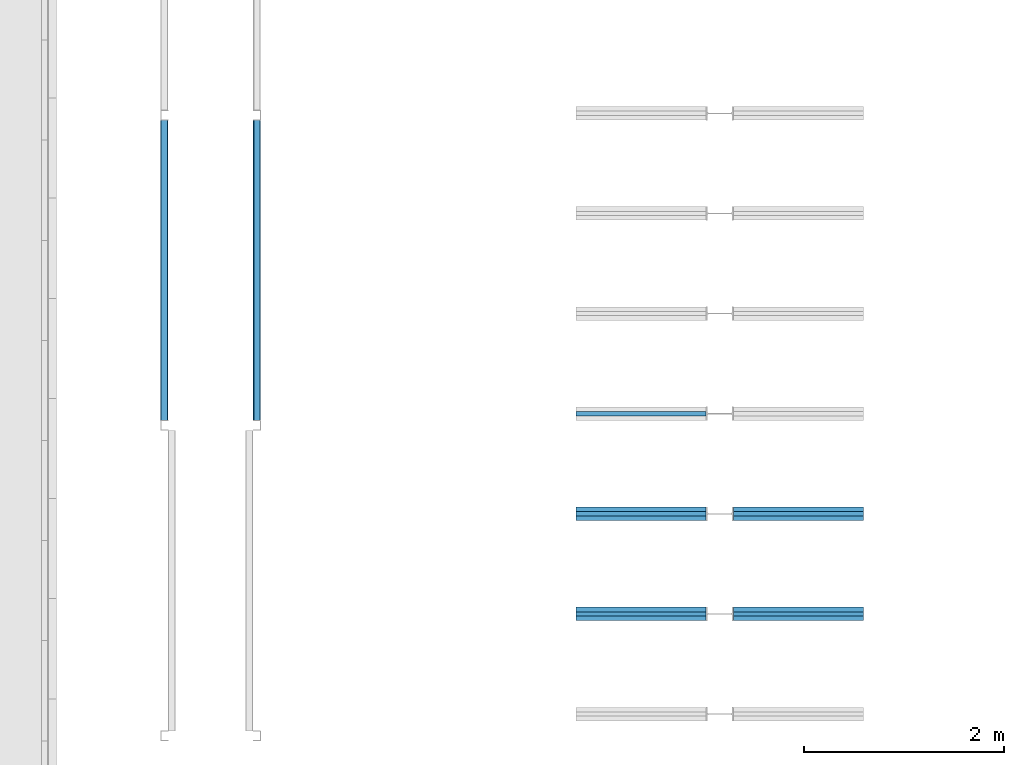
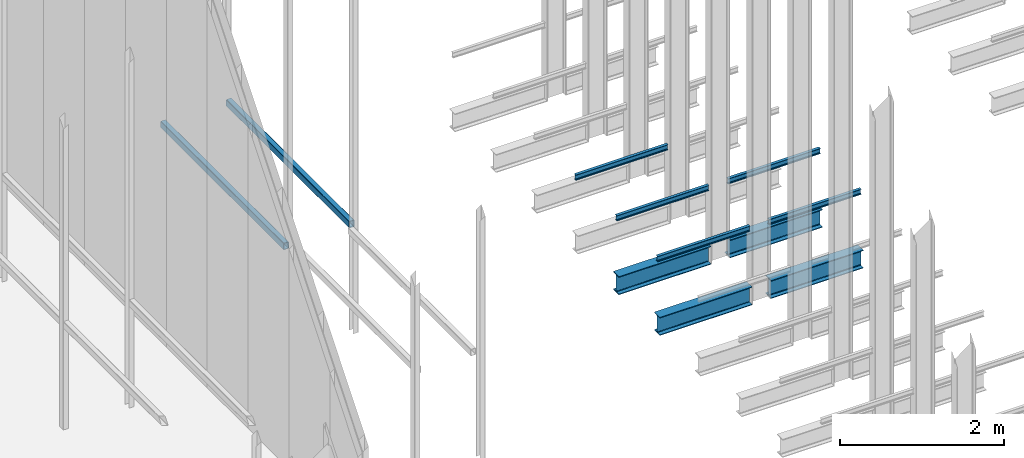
# One storey, part 181 of 302: 11 beams.
"""IFC2X3 building model written with IfcOpenShell, lengths in metres."""

from ifc_helpers import new_model, entity, si_unit, converted_unit, derived_unit, direction, frame, frame_2d, origin, place, context, subcontext, project, spatial, polyline, circle_curve, parameter, trimmed, segment, composite_curve, i_section, outline, extrude, material, type_object, element, save


model = new_model("IFC2X3")

# Units and contexts
model_context = context("Model", 3, precision=1e-05, world=origin(), true_north=direction((6.12303176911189e-17, 1.0)))
body_context = subcontext(model_context, "Body", "Model", "MODEL_VIEW")
ifc_project = project(units=[si_unit("LENGTHUNIT", "METRE"), si_unit("AREAUNIT", "SQUARE_METRE"), si_unit("VOLUMEUNIT", "CUBIC_METRE"), converted_unit("PLANEANGLEUNIT", "DEGREE", entity("IfcRatioMeasure", 0.0174532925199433), si_unit("PLANEANGLEUNIT", "RADIAN"), dimensions=[0, 0, 0, 0, 0, 0, 0]), si_unit("MASSUNIT", "GRAM", prefix="KILO"), derived_unit("MASSDENSITYUNIT", [(si_unit("MASSUNIT", "GRAM", prefix="KILO"), 1), (si_unit("LENGTHUNIT", "METRE"), -3)]), derived_unit("MOMENTOFINERTIAUNIT", [(si_unit("LENGTHUNIT", "METRE"), 4)]), si_unit("TIMEUNIT", "SECOND"), si_unit("FREQUENCYUNIT", "HERTZ"), si_unit("THERMODYNAMICTEMPERATUREUNIT", "DEGREE_CELSIUS"), derived_unit("THERMALTRANSMITTANCEUNIT", [(si_unit("MASSUNIT", "GRAM", prefix="KILO"), 1), (si_unit("THERMODYNAMICTEMPERATUREUNIT", "KELVIN"), -1), (si_unit("TIMEUNIT", "SECOND"), -3)]), derived_unit("VOLUMETRICFLOWRATEUNIT", [(si_unit("LENGTHUNIT", "METRE"), 3), (si_unit("TIMEUNIT", "SECOND"), -1)]), si_unit("ELECTRICCURRENTUNIT", "AMPERE"), si_unit("ELECTRICVOLTAGEUNIT", "VOLT"), si_unit("POWERUNIT", "WATT"), si_unit("FORCEUNIT", "NEWTON", prefix="KILO"), si_unit("ILLUMINANCEUNIT", "LUX"), si_unit("LUMINOUSFLUXUNIT", "LUMEN"), si_unit("LUMINOUSINTENSITYUNIT", "CANDELA"), derived_unit("USERDEFINED", [(si_unit("MASSUNIT", "GRAM", prefix="KILO"), -1), (si_unit("LENGTHUNIT", "METRE"), -2), (si_unit("TIMEUNIT", "SECOND"), 3), (si_unit("LUMINOUSFLUXUNIT", "LUMEN"), 1)]), derived_unit("LINEARVELOCITYUNIT", [(si_unit("LENGTHUNIT", "METRE"), 1), (si_unit("TIMEUNIT", "SECOND"), -1)]), si_unit("PRESSUREUNIT", "PASCAL"), derived_unit("USERDEFINED", [(si_unit("LENGTHUNIT", "METRE"), -2), (si_unit("MASSUNIT", "GRAM", prefix="KILO"), 1), (si_unit("TIMEUNIT", "SECOND"), -2)]), derived_unit("LINEARFORCEUNIT", [(si_unit("MASSUNIT", "GRAM", prefix="KILO"), 1), (si_unit("LENGTHUNIT", "METRE"), 1), (si_unit("TIMEUNIT", "SECOND"), -2), (si_unit("LENGTHUNIT", "METRE"), -1)]), derived_unit("PLANARFORCEUNIT", [(si_unit("MASSUNIT", "GRAM", prefix="KILO"), 1), (si_unit("LENGTHUNIT", "METRE"), 1), (si_unit("TIMEUNIT", "SECOND"), -2), (si_unit("LENGTHUNIT", "METRE"), -2)])], contexts=[model_context])

# Site, building, storey
site_placement = place(None, origin())
site = spatial("IfcSite", under=ifc_project, at=site_placement, Name="Default", CompositionType="ELEMENT")
building_placement = place(site_placement, origin())
building = spatial("IfcBuilding", under=site, at=building_placement, CompositionType="ELEMENT")
storey_placement = place(building_placement, frame((0.0, 0.0, -1.3)))
storey = spatial("IfcBuildingStorey", under=building, at=storey_placement, Name="00_EG", CompositionType="ELEMENT", Elevation=-1.3)

# Beams
ifc_material_1 = material(Name="Metall - Baustahl S235 blau")
beam_type_1 = type_object("IfcBeamType", Name="RHS Träger (EN 10219-2):RHS 100 x 75 x 5", PredefinedType="NOTDEFINED")
beam_1_placement = place(storey_placement, frame((-175.305111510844, 51.9480889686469, 2.885), z_axis=(0.0, 0.0, 1.0), x_axis=(0.0, 1.0, 0.0)))
element("IfcBeam", 1, at=beam_1_placement, inside=storey, type_object=beam_type_1, material=ifc_material_1, Name="RHS Träger (EN 10219-2):RHS 100 x 75 x 5", ObjectType="RHS Träger (EN 10219-2):RHS 100 x 75 x 5", context=body_context, shape_type="SweptSolid", body=[
    extrude(outline(composite_curve([segment(polyline([(-0.0399999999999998, -0.0374999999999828), (0.0400000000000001, -0.0374999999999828)]), True, "CONTINUOUS"), segment(trimmed(circle_curve(frame_2d((0.0399999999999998, -0.0274999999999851), x_axis=(0.0, 1.0)), 0.01), [parameter(180.0)], [parameter(270.0)], True, "PARAMETER"), True, "CONTINUOUS"), segment(polyline([(0.05, -0.0274999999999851), (0.05, 0.0274999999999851)]), True, "CONTINUOUS"), segment(trimmed(circle_curve(frame_2d((0.0399999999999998, 0.0274999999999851), x_axis=(0.0, 1.0)), 0.01), [parameter(270.0)], [parameter(4.07110999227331e-13)], True, "PARAMETER"), True, "CONTINUOUS"), segment(polyline([(0.0400000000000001, 0.0375000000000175), (-0.0399999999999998, 0.0375000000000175)]), True, "CONTINUOUS"), segment(trimmed(circle_curve(frame_2d((-0.0400000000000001, 0.0274999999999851), x_axis=(0.0, 1.0)), 0.01), [parameter(360.0)], [parameter(90.0000000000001)], True, "PARAMETER"), True, "CONTINUOUS"), segment(polyline([(-0.05, 0.0274999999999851), (-0.05, -0.0274999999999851)]), True, "CONTINUOUS"), segment(trimmed(circle_curve(frame_2d((-0.0400000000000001, -0.0274999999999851), x_axis=(0.0, 1.0)), 0.01), [parameter(90.0000000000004)], [parameter(180.0)], True, "PARAMETER"), True, "CONTINUOUS")], self_intersect=False), holes=[composite_curve([segment(trimmed(circle_curve(frame_2d((-0.0400000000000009, 0.0274999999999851), x_axis=(0.0, 1.0)), 0.005), [parameter(360.0)], [parameter(89.9999999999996)], True, "PARAMETER"), False, "CONTINUOUS"), segment(polyline([(-0.0400000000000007, 0.0325000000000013), (0.0399999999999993, 0.0325000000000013)]), True, "CONTINUOUS"), segment(trimmed(circle_curve(frame_2d((0.039999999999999, 0.0274999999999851), x_axis=(0.0, 1.0)), 0.005), [parameter(270.0)], [parameter(0.0)], True, "PARAMETER"), False, "CONTINUOUS"), segment(polyline([(0.0449999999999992, 0.0274999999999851), (0.0449999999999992, -0.0274999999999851)]), True, "CONTINUOUS"), segment(trimmed(circle_curve(frame_2d((0.039999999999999, -0.0274999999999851), x_axis=(0.0, 1.0)), 0.005), [parameter(180.0)], [parameter(269.999999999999)], True, "PARAMETER"), False, "CONTINUOUS"), segment(polyline([(0.0399999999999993, -0.0325000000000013), (-0.0400000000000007, -0.0325000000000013)]), True, "CONTINUOUS"), segment(trimmed(circle_curve(frame_2d((-0.0400000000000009, -0.0274999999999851), x_axis=(0.0, 1.0)), 0.005), [parameter(90.0000000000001)], [parameter(180.0)], True, "PARAMETER"), False, "CONTINUOUS"), segment(polyline([(-0.0450000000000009, -0.0274999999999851), (-0.0450000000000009, 0.0274999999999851)]), True, "CONTINUOUS")], self_intersect=False)]), frame((0.000100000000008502, -0.0375000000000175, -0.0500000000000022), z_axis=(1.0, 0.0, 0.0), x_axis=(0.0, 0.0, -1.0)), (0.0, 0.0, 1.0), 2.99979999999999),
])
beam_2_placement = place(storey_placement, frame((-176.155111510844, 51.9480889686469, 2.885), z_axis=(0.0, 0.0, 1.0), x_axis=(0.0, 1.0, 0.0)))
element("IfcBeam", 2, at=beam_2_placement, inside=storey, type_object=beam_type_1, material=ifc_material_1, Name="RHS Träger (EN 10219-2):RHS 100 x 75 x 5", ObjectType="RHS Träger (EN 10219-2):RHS 100 x 75 x 5", context=body_context, shape_type="SweptSolid", body=[
    extrude(outline(composite_curve([segment(trimmed(circle_curve(frame_2d((-0.0274999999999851, -0.0400000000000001), x_axis=(1.0, 0.0)), 0.01), [parameter(180.0)], [parameter(270.0)], True, "PARAMETER"), True, "CONTINUOUS"), segment(polyline([(-0.0274999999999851, -0.05), (0.0274999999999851, -0.05)]), True, "CONTINUOUS"), segment(trimmed(circle_curve(frame_2d((0.0274999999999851, -0.0400000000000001), x_axis=(1.0, 0.0)), 0.01), [parameter(270.0)], [parameter(5.08888749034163e-14)], True, "PARAMETER"), True, "CONTINUOUS"), segment(polyline([(0.0375000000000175, -0.0399999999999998), (0.0375000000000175, 0.0400000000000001)]), True, "CONTINUOUS"), segment(trimmed(circle_curve(frame_2d((0.0274999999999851, 0.0399999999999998), x_axis=(1.0, 0.0)), 0.01), [parameter(360.0)], [parameter(89.9999999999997)], True, "PARAMETER"), True, "CONTINUOUS"), segment(polyline([(0.0274999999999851, 0.05), (-0.0274999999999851, 0.05)]), True, "CONTINUOUS"), segment(trimmed(circle_curve(frame_2d((-0.0274999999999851, 0.0399999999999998), x_axis=(1.0, 0.0)), 0.01), [parameter(90.0000000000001)], [parameter(180.0)], True, "PARAMETER"), True, "CONTINUOUS"), segment(polyline([(-0.0374999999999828, 0.0400000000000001), (-0.0374999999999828, -0.0399999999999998)]), True, "CONTINUOUS")], self_intersect=False), holes=[composite_curve([segment(polyline([(0.0274999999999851, -0.0450000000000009), (-0.0274999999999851, -0.0450000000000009)]), True, "CONTINUOUS"), segment(trimmed(circle_curve(frame_2d((-0.0274999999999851, -0.0400000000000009), x_axis=(1.0, 0.0)), 0.005), [parameter(180.0)], [parameter(270.0)], True, "PARAMETER"), False, "CONTINUOUS"), segment(polyline([(-0.0325000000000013, -0.0400000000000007), (-0.0325000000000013, 0.0399999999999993)]), True, "CONTINUOUS"), segment(trimmed(circle_curve(frame_2d((-0.0274999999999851, 0.039999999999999), x_axis=(1.0, 0.0)), 0.005), [parameter(90.0000000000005)], [parameter(180.0)], True, "PARAMETER"), False, "CONTINUOUS"), segment(polyline([(-0.0274999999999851, 0.0449999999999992), (0.0274999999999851, 0.0449999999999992)]), True, "CONTINUOUS"), segment(trimmed(circle_curve(frame_2d((0.0274999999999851, 0.039999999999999), x_axis=(1.0, 0.0)), 0.005), [parameter(0.0)], [parameter(90.0000000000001)], True, "PARAMETER"), False, "CONTINUOUS"), segment(polyline([(0.0325000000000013, 0.0399999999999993), (0.0325000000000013, -0.0400000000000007)]), True, "CONTINUOUS"), segment(trimmed(circle_curve(frame_2d((0.0274999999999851, -0.0400000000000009), x_axis=(1.0, 0.0)), 0.005), [parameter(270.0)], [parameter(4.07110999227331e-13)], True, "PARAMETER"), False, "CONTINUOUS")], self_intersect=False)]), frame((0.000100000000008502, 0.0375000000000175, -0.0500000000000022), z_axis=(1.0, 0.0, 0.0), x_axis=(0.0, -1.0, 0.0)), (0.0, 0.0, 1.0), 2.99979999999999),
])
ifc_material_2 = material(Name="Metall - Baustahl S235")
beam_type_2 = type_object("IfcBeamType", Name="IPN Träger:IPN 80", PredefinedType="NOTDEFINED")
beam_3_placement = place(storey_placement, frame((-170.780111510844, 52.0365889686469, 2.42), z_axis=(0.0, 0.0, 1.0), x_axis=(-1.0, 0.0, 0.0)))
element("IfcBeam", 3, at=beam_3_placement, inside=storey, type_object=beam_type_2, material=ifc_material_2, Name="IPN Träger:IPN 80", ObjectType="IPN Träger:IPN 80", context=body_context, shape_type="SweptSolid", body=[
    extrude(outline(composite_curve([segment(polyline([(0.0375704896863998, -0.0209999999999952), (0.0399999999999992, -0.0209999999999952)]), True, "CONTINUOUS"), segment(polyline([(0.0399999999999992, -0.0209999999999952), (0.0399999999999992, 0.0210000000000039)]), True, "CONTINUOUS"), segment(polyline([(0.039999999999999, 0.0210000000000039), (0.037570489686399, 0.0210000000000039)]), True, "CONTINUOUS"), segment(trimmed(circle_curve(frame_2d((0.0375704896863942, 0.0187000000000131), x_axis=(0.0, 1.0)), 0.0022999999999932), [parameter(0.0)], [parameter(82.0300000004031)], True, "PARAMETER"), True, "CONTINUOUS"), segment(polyline([(0.0352927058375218, 0.0190189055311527), (0.0333732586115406, 0.0053092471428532)]), True, "CONTINUOUS"), segment(trimmed(circle_curve(frame_2d((0.0295109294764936, 0.005850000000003), x_axis=(0.990340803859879, -0.138654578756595)), 0.00389999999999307), [parameter(277.969999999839)], [parameter(0.0)], True, "PARAMETER"), False, "CONTINUOUS"), segment(polyline([(0.0295109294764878, 0.00195000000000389), (-0.0295109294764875, 0.00195000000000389)]), True, "CONTINUOUS"), segment(trimmed(circle_curve(frame_2d((-0.0295109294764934, 0.005850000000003), x_axis=(0.0, -1.0)), 0.00389999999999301), [parameter(277.969999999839)], [parameter(0.0)], True, "PARAMETER"), False, "CONTINUOUS"), segment(polyline([(-0.0333732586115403, 0.0053092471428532), (-0.0352927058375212, 0.0190189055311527)]), True, "CONTINUOUS"), segment(trimmed(circle_curve(frame_2d((-0.0375704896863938, 0.0187000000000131), x_axis=(0.990340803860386, 0.138654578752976)), 0.00229999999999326), [parameter(0.0)], [parameter(82.0300000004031)], True, "PARAMETER"), True, "CONTINUOUS"), segment(polyline([(-0.0375704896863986, 0.0210000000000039), (-0.0400000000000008, 0.0210000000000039)]), True, "CONTINUOUS"), segment(polyline([(-0.0400000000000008, 0.0210000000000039), (-0.0400000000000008, -0.0209999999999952)]), True, "CONTINUOUS"), segment(polyline([(-0.0400000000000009, -0.0209999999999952), (-0.037570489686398, -0.0209999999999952)]), True, "CONTINUOUS"), segment(trimmed(circle_curve(frame_2d((-0.0375704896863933, -0.0186999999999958), x_axis=(0.0, -1.0)), 0.00229999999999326), [parameter(0.0)], [parameter(82.0300000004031)], True, "PARAMETER"), True, "CONTINUOUS"), segment(polyline([(-0.0352927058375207, -0.0190189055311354), (-0.0333732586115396, -0.00530924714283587)]), True, "CONTINUOUS"), segment(trimmed(circle_curve(frame_2d((-0.0295109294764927, -0.00584999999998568), x_axis=(-0.990340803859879, 0.138654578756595)), 0.00389999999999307), [parameter(277.969999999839)], [parameter(0.0)], True, "PARAMETER"), False, "CONTINUOUS"), segment(polyline([(-0.0295109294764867, -0.00194999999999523), (0.0295109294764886, -0.00194999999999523)]), True, "CONTINUOUS"), segment(trimmed(circle_curve(frame_2d((0.0295109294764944, -0.00584999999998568), x_axis=(0.0, 1.0)), 0.00389999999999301), [parameter(277.969999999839)], [parameter(0.0)], True, "PARAMETER"), False, "CONTINUOUS"), segment(polyline([(0.0333732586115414, -0.00530924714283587), (0.0352927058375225, -0.0190189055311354)]), True, "CONTINUOUS"), segment(trimmed(circle_curve(frame_2d((0.0375704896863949, -0.0186999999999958), x_axis=(-0.990340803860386, -0.138654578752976)), 0.00229999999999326), [parameter(0.0)], [parameter(82.0300000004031)], True, "PARAMETER"), True, "CONTINUOUS")], self_intersect=False)), frame((0.000100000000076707, 0.0209999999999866, -0.0400000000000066), z_axis=(1.0, 0.0, 0.0), x_axis=(0.0, 0.0, -1.0)), (0.0, 0.0, 1.0), 1.29990000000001),
])
beam_4_placement = place(storey_placement, frame((-170.510111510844, 50.9945889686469, 2.42)))
element("IfcBeam", 4, at=beam_4_placement, inside=storey, type_object=beam_type_2, material=ifc_material_2, Name="IPN Träger:IPN 80", ObjectType="IPN Träger:IPN 80", context=body_context, shape_type="SweptSolid", body=[
    extrude(outline(composite_curve([segment(polyline([(0.0375704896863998, -0.0210000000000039), (0.0399999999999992, -0.0210000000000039)]), True, "CONTINUOUS"), segment(polyline([(0.0399999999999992, -0.0210000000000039), (0.0399999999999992, 0.0209999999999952)]), True, "CONTINUOUS"), segment(polyline([(0.039999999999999, 0.0209999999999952), (0.037570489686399, 0.0209999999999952)]), True, "CONTINUOUS"), segment(trimmed(circle_curve(frame_2d((0.0375704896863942, 0.0187000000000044), x_axis=(0.0, 1.0)), 0.0022999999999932), [parameter(0.0)], [parameter(82.0300000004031)], True, "PARAMETER"), True, "CONTINUOUS"), segment(polyline([(0.0352927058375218, 0.019018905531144), (0.0333732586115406, 0.00530924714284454)]), True, "CONTINUOUS"), segment(trimmed(circle_curve(frame_2d((0.0295109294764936, 0.00584999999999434), x_axis=(0.990340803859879, -0.138654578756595)), 0.00389999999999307), [parameter(277.969999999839)], [parameter(0.0)], True, "PARAMETER"), False, "CONTINUOUS"), segment(polyline([(0.0295109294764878, 0.00194999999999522), (-0.0295109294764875, 0.00194999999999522)]), True, "CONTINUOUS"), segment(trimmed(circle_curve(frame_2d((-0.0295109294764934, 0.00584999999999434), x_axis=(0.0, -1.0)), 0.00389999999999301), [parameter(277.969999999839)], [parameter(0.0)], True, "PARAMETER"), False, "CONTINUOUS"), segment(polyline([(-0.0333732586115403, 0.00530924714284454), (-0.0352927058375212, 0.019018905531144)]), True, "CONTINUOUS"), segment(trimmed(circle_curve(frame_2d((-0.0375704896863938, 0.0187000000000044), x_axis=(0.990340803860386, 0.138654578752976)), 0.00229999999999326), [parameter(0.0)], [parameter(82.0300000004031)], True, "PARAMETER"), True, "CONTINUOUS"), segment(polyline([(-0.0375704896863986, 0.0209999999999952), (-0.0400000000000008, 0.0209999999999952)]), True, "CONTINUOUS"), segment(polyline([(-0.0400000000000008, 0.0209999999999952), (-0.0400000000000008, -0.0210000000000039)]), True, "CONTINUOUS"), segment(polyline([(-0.0400000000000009, -0.0210000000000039), (-0.037570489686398, -0.0210000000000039)]), True, "CONTINUOUS"), segment(trimmed(circle_curve(frame_2d((-0.0375704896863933, -0.0187000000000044), x_axis=(0.0, -1.0)), 0.00229999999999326), [parameter(0.0)], [parameter(82.0300000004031)], True, "PARAMETER"), True, "CONTINUOUS"), segment(polyline([(-0.0352927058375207, -0.019018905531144), (-0.0333732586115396, -0.00530924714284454)]), True, "CONTINUOUS"), segment(trimmed(circle_curve(frame_2d((-0.0295109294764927, -0.00584999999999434), x_axis=(-0.990340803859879, 0.138654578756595)), 0.00389999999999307), [parameter(277.969999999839)], [parameter(0.0)], True, "PARAMETER"), False, "CONTINUOUS"), segment(polyline([(-0.0295109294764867, -0.00195000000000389), (0.0295109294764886, -0.00195000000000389)]), True, "CONTINUOUS"), segment(trimmed(circle_curve(frame_2d((0.0295109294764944, -0.00584999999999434), x_axis=(0.0, 1.0)), 0.00389999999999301), [parameter(277.969999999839)], [parameter(0.0)], True, "PARAMETER"), False, "CONTINUOUS"), segment(polyline([(0.0333732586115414, -0.00530924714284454), (0.0352927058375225, -0.019018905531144)]), True, "CONTINUOUS"), segment(trimmed(circle_curve(frame_2d((0.0375704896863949, -0.0187000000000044), x_axis=(-0.990340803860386, -0.138654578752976)), 0.00229999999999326), [parameter(0.0)], [parameter(82.0300000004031)], True, "PARAMETER"), True, "CONTINUOUS")], self_intersect=False)), frame((0.000100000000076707, 0.0209999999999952, -0.0400000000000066), z_axis=(1.0, 0.0, 0.0), x_axis=(0.0, 0.0, -1.0)), (0.0, 0.0, 1.0), 1.29990000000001),
])
beam_5_placement = place(storey_placement, frame((-170.780111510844, 51.0365889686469, 2.42), z_axis=(0.0, 0.0, 1.0), x_axis=(-1.0, 0.0, 0.0)))
element("IfcBeam", 5, at=beam_5_placement, inside=storey, type_object=beam_type_2, material=ifc_material_2, Name="IPN Träger:IPN 80", ObjectType="IPN Träger:IPN 80", context=body_context, shape_type="SweptSolid", body=[
    extrude(outline(composite_curve([segment(polyline([(0.0375704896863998, -0.0209999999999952), (0.0399999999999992, -0.0209999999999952)]), True, "CONTINUOUS"), segment(polyline([(0.0399999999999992, -0.0209999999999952), (0.0399999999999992, 0.0210000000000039)]), True, "CONTINUOUS"), segment(polyline([(0.039999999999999, 0.0210000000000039), (0.037570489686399, 0.0210000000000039)]), True, "CONTINUOUS"), segment(trimmed(circle_curve(frame_2d((0.0375704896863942, 0.0187000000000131), x_axis=(0.0, 1.0)), 0.0022999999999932), [parameter(0.0)], [parameter(82.0300000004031)], True, "PARAMETER"), True, "CONTINUOUS"), segment(polyline([(0.0352927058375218, 0.0190189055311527), (0.0333732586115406, 0.0053092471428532)]), True, "CONTINUOUS"), segment(trimmed(circle_curve(frame_2d((0.0295109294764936, 0.005850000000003), x_axis=(0.990340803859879, -0.138654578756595)), 0.00389999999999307), [parameter(277.969999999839)], [parameter(0.0)], True, "PARAMETER"), False, "CONTINUOUS"), segment(polyline([(0.0295109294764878, 0.00195000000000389), (-0.0295109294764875, 0.00195000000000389)]), True, "CONTINUOUS"), segment(trimmed(circle_curve(frame_2d((-0.0295109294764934, 0.005850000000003), x_axis=(0.0, -1.0)), 0.00389999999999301), [parameter(277.969999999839)], [parameter(0.0)], True, "PARAMETER"), False, "CONTINUOUS"), segment(polyline([(-0.0333732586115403, 0.0053092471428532), (-0.0352927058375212, 0.0190189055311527)]), True, "CONTINUOUS"), segment(trimmed(circle_curve(frame_2d((-0.0375704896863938, 0.0187000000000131), x_axis=(0.990340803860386, 0.138654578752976)), 0.00229999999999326), [parameter(0.0)], [parameter(82.0300000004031)], True, "PARAMETER"), True, "CONTINUOUS"), segment(polyline([(-0.0375704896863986, 0.0210000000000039), (-0.0400000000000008, 0.0210000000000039)]), True, "CONTINUOUS"), segment(polyline([(-0.0400000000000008, 0.0210000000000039), (-0.0400000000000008, -0.0209999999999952)]), True, "CONTINUOUS"), segment(polyline([(-0.0400000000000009, -0.0209999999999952), (-0.037570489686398, -0.0209999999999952)]), True, "CONTINUOUS"), segment(trimmed(circle_curve(frame_2d((-0.0375704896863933, -0.0186999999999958), x_axis=(0.0, -1.0)), 0.00229999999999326), [parameter(0.0)], [parameter(82.0300000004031)], True, "PARAMETER"), True, "CONTINUOUS"), segment(polyline([(-0.0352927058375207, -0.0190189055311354), (-0.0333732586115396, -0.00530924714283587)]), True, "CONTINUOUS"), segment(trimmed(circle_curve(frame_2d((-0.0295109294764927, -0.00584999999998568), x_axis=(-0.990340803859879, 0.138654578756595)), 0.00389999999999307), [parameter(277.969999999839)], [parameter(0.0)], True, "PARAMETER"), False, "CONTINUOUS"), segment(polyline([(-0.0295109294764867, -0.00194999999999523), (0.0295109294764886, -0.00194999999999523)]), True, "CONTINUOUS"), segment(trimmed(circle_curve(frame_2d((0.0295109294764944, -0.00584999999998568), x_axis=(0.0, 1.0)), 0.00389999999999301), [parameter(277.969999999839)], [parameter(0.0)], True, "PARAMETER"), False, "CONTINUOUS"), segment(polyline([(0.0333732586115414, -0.00530924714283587), (0.0352927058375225, -0.0190189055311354)]), True, "CONTINUOUS"), segment(trimmed(circle_curve(frame_2d((0.0375704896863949, -0.0186999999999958), x_axis=(-0.990340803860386, -0.138654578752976)), 0.00229999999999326), [parameter(0.0)], [parameter(82.0300000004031)], True, "PARAMETER"), True, "CONTINUOUS")], self_intersect=False)), frame((0.000100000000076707, 0.0209999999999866, -0.0400000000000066), z_axis=(1.0, 0.0, 0.0), x_axis=(0.0, 0.0, -1.0)), (0.0, 0.0, 1.0), 1.29990000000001),
])
beam_6_placement = place(storey_placement, frame((-170.510111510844, 49.9945889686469, 2.42)))
element("IfcBeam", 6, at=beam_6_placement, inside=storey, type_object=beam_type_2, material=ifc_material_2, Name="IPN Träger:IPN 80", ObjectType="IPN Träger:IPN 80", context=body_context, shape_type="SweptSolid", body=[
    extrude(outline(composite_curve([segment(polyline([(0.0375704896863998, -0.0210000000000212), (0.0399999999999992, -0.0210000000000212)]), True, "CONTINUOUS"), segment(polyline([(0.0399999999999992, -0.0210000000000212), (0.0399999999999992, 0.0209999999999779)]), True, "CONTINUOUS"), segment(polyline([(0.039999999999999, 0.0209999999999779), (0.037570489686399, 0.0209999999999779)]), True, "CONTINUOUS"), segment(trimmed(circle_curve(frame_2d((0.0375704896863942, 0.0186999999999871), x_axis=(0.0, 1.0)), 0.0022999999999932), [parameter(0.0)], [parameter(82.0300000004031)], True, "PARAMETER"), True, "CONTINUOUS"), segment(polyline([(0.0352927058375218, 0.0190189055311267), (0.0333732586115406, 0.00530924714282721)]), True, "CONTINUOUS"), segment(trimmed(circle_curve(frame_2d((0.0295109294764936, 0.00584999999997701), x_axis=(0.990340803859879, -0.138654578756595)), 0.00389999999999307), [parameter(277.969999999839)], [parameter(0.0)], True, "PARAMETER"), False, "CONTINUOUS"), segment(polyline([(0.0295109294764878, 0.0019499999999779), (-0.0295109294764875, 0.0019499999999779)]), True, "CONTINUOUS"), segment(trimmed(circle_curve(frame_2d((-0.0295109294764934, 0.00584999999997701), x_axis=(0.0, -1.0)), 0.00389999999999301), [parameter(277.969999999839)], [parameter(0.0)], True, "PARAMETER"), False, "CONTINUOUS"), segment(polyline([(-0.0333732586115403, 0.00530924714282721), (-0.0352927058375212, 0.0190189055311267)]), True, "CONTINUOUS"), segment(trimmed(circle_curve(frame_2d((-0.0375704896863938, 0.0186999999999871), x_axis=(0.990340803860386, 0.138654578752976)), 0.00229999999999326), [parameter(0.0)], [parameter(82.0300000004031)], True, "PARAMETER"), True, "CONTINUOUS"), segment(polyline([(-0.0375704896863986, 0.0209999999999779), (-0.0400000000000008, 0.0209999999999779)]), True, "CONTINUOUS"), segment(polyline([(-0.0400000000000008, 0.0209999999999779), (-0.0400000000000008, -0.0210000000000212)]), True, "CONTINUOUS"), segment(polyline([(-0.0400000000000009, -0.0210000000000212), (-0.037570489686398, -0.0210000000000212)]), True, "CONTINUOUS"), segment(trimmed(circle_curve(frame_2d((-0.0375704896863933, -0.0187000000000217), x_axis=(0.0, -1.0)), 0.00229999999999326), [parameter(0.0)], [parameter(82.0300000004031)], True, "PARAMETER"), True, "CONTINUOUS"), segment(polyline([(-0.0352927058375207, -0.0190189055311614), (-0.0333732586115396, -0.00530924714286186)]), True, "CONTINUOUS"), segment(trimmed(circle_curve(frame_2d((-0.0295109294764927, -0.00585000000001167), x_axis=(-0.990340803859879, 0.138654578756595)), 0.00389999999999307), [parameter(277.969999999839)], [parameter(0.0)], True, "PARAMETER"), False, "CONTINUOUS"), segment(polyline([(-0.0295109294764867, -0.00195000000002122), (0.0295109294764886, -0.00195000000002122)]), True, "CONTINUOUS"), segment(trimmed(circle_curve(frame_2d((0.0295109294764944, -0.00585000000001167), x_axis=(0.0, 1.0)), 0.00389999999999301), [parameter(277.969999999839)], [parameter(0.0)], True, "PARAMETER"), False, "CONTINUOUS"), segment(polyline([(0.0333732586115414, -0.00530924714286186), (0.0352927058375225, -0.0190189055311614)]), True, "CONTINUOUS"), segment(trimmed(circle_curve(frame_2d((0.0375704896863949, -0.0187000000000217), x_axis=(-0.990340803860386, -0.138654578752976)), 0.00229999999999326), [parameter(0.0)], [parameter(82.0300000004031)], True, "PARAMETER"), True, "CONTINUOUS")], self_intersect=False)), frame((0.000100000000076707, 0.0210000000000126, -0.0400000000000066), z_axis=(1.0, 0.0, 0.0), x_axis=(0.0, 0.0, -1.0)), (0.0, 0.0, 1.0), 1.29990000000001),
])
beam_7_placement = place(storey_placement, frame((-170.780111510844, 50.0365889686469, 2.42), z_axis=(0.0, 0.0, 1.0), x_axis=(-1.0, 0.0, 0.0)))
element("IfcBeam", 7, at=beam_7_placement, inside=storey, type_object=beam_type_2, material=ifc_material_2, Name="IPN Träger:IPN 80", ObjectType="IPN Träger:IPN 80", context=body_context, shape_type="SweptSolid", body=[
    extrude(outline(composite_curve([segment(polyline([(0.0375704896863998, -0.0209999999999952), (0.0399999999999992, -0.0209999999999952)]), True, "CONTINUOUS"), segment(polyline([(0.0399999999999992, -0.0209999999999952), (0.0399999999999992, 0.0210000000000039)]), True, "CONTINUOUS"), segment(polyline([(0.039999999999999, 0.0210000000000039), (0.037570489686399, 0.0210000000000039)]), True, "CONTINUOUS"), segment(trimmed(circle_curve(frame_2d((0.0375704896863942, 0.0187000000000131), x_axis=(0.0, 1.0)), 0.0022999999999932), [parameter(0.0)], [parameter(82.0300000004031)], True, "PARAMETER"), True, "CONTINUOUS"), segment(polyline([(0.0352927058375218, 0.0190189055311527), (0.0333732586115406, 0.0053092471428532)]), True, "CONTINUOUS"), segment(trimmed(circle_curve(frame_2d((0.0295109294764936, 0.005850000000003), x_axis=(0.990340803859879, -0.138654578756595)), 0.00389999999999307), [parameter(277.969999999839)], [parameter(0.0)], True, "PARAMETER"), False, "CONTINUOUS"), segment(polyline([(0.0295109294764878, 0.00195000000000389), (-0.0295109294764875, 0.00195000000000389)]), True, "CONTINUOUS"), segment(trimmed(circle_curve(frame_2d((-0.0295109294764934, 0.005850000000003), x_axis=(0.0, -1.0)), 0.00389999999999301), [parameter(277.969999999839)], [parameter(0.0)], True, "PARAMETER"), False, "CONTINUOUS"), segment(polyline([(-0.0333732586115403, 0.0053092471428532), (-0.0352927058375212, 0.0190189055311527)]), True, "CONTINUOUS"), segment(trimmed(circle_curve(frame_2d((-0.0375704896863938, 0.0187000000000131), x_axis=(0.990340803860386, 0.138654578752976)), 0.00229999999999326), [parameter(0.0)], [parameter(82.0300000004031)], True, "PARAMETER"), True, "CONTINUOUS"), segment(polyline([(-0.0375704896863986, 0.0210000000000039), (-0.0400000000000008, 0.0210000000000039)]), True, "CONTINUOUS"), segment(polyline([(-0.0400000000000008, 0.0210000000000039), (-0.0400000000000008, -0.0209999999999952)]), True, "CONTINUOUS"), segment(polyline([(-0.0400000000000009, -0.0209999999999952), (-0.037570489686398, -0.0209999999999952)]), True, "CONTINUOUS"), segment(trimmed(circle_curve(frame_2d((-0.0375704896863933, -0.0186999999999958), x_axis=(0.0, -1.0)), 0.00229999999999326), [parameter(0.0)], [parameter(82.0300000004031)], True, "PARAMETER"), True, "CONTINUOUS"), segment(polyline([(-0.0352927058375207, -0.0190189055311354), (-0.0333732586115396, -0.00530924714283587)]), True, "CONTINUOUS"), segment(trimmed(circle_curve(frame_2d((-0.0295109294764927, -0.00584999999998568), x_axis=(-0.990340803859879, 0.138654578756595)), 0.00389999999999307), [parameter(277.969999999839)], [parameter(0.0)], True, "PARAMETER"), False, "CONTINUOUS"), segment(polyline([(-0.0295109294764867, -0.00194999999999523), (0.0295109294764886, -0.00194999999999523)]), True, "CONTINUOUS"), segment(trimmed(circle_curve(frame_2d((0.0295109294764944, -0.00584999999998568), x_axis=(0.0, 1.0)), 0.00389999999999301), [parameter(277.969999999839)], [parameter(0.0)], True, "PARAMETER"), False, "CONTINUOUS"), segment(polyline([(0.0333732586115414, -0.00530924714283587), (0.0352927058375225, -0.0190189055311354)]), True, "CONTINUOUS"), segment(trimmed(circle_curve(frame_2d((0.0375704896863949, -0.0186999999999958), x_axis=(-0.990340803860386, -0.138654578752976)), 0.00229999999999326), [parameter(0.0)], [parameter(82.0300000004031)], True, "PARAMETER"), True, "CONTINUOUS")], self_intersect=False)), frame((0.000100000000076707, 0.0209999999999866, -0.0400000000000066), z_axis=(1.0, 0.0, 0.0), x_axis=(0.0, 0.0, -1.0)), (0.0, 0.0, 1.0), 1.29990000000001),
])
beam_type_3 = type_object("IfcBeamType", Name="IPE Träger:IPE 270", PredefinedType="NOTDEFINED")
beam_8_placement = place(storey_placement, frame((-170.780111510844, 50.0830889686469, 1.54000000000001), z_axis=(0.0, 0.0, 1.0), x_axis=(-1.0, 0.0, 0.0)))
element("IfcBeam", 8, at=beam_8_placement, inside=storey, type_object=beam_type_3, material=ifc_material_2, Name="IPE Träger:IPE 270", ObjectType="IPE Träger:IPE 270", context=body_context, shape_type="SweptSolid", body=[
    extrude(i_section(OverallWidth=0.134999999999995, OverallDepth=0.27, WebThickness=0.0065999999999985, FlangeThickness=0.0102000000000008, FilletRadius=0.0149999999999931, at=frame_2d((5.96744875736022e-16, 8.66667848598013e-15), x_axis=(0.0, 1.0))), frame((0.000100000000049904, 0.0674999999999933, -0.135000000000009), z_axis=(1.0, 0.0, 0.0), x_axis=(0.0, 0.0, -1.0)), (0.0, 0.0, 1.0), 1.29990000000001),
])
beam_9_placement = place(storey_placement, frame((-170.510111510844, 50.0830889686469, 1.54000000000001)))
element("IfcBeam", 9, at=beam_9_placement, inside=storey, type_object=beam_type_3, material=ifc_material_2, Name="IPE Träger:IPE 270", ObjectType="IPE Träger:IPE 270", context=body_context, shape_type="SweptSolid", body=[
    extrude(i_section(OverallWidth=0.134999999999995, OverallDepth=0.27, WebThickness=0.0065999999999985, FlangeThickness=0.0102000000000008, FilletRadius=0.0149999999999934, at=frame_2d((5.96744875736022e-16, -8.66667848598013e-15), x_axis=(0.0, 1.0))), frame((0.000100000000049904, -0.0674999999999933, -0.135000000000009), z_axis=(1.0, 0.0, 0.0), x_axis=(0.0, 0.0, -1.0)), (0.0, 0.0, 1.0), 1.29990000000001),
])
beam_10_placement = place(storey_placement, frame((-170.780111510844, 51.0830889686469, 1.54000000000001), z_axis=(0.0, 0.0, 1.0), x_axis=(-1.0, 0.0, 0.0)))
element("IfcBeam", 10, at=beam_10_placement, inside=storey, type_object=beam_type_3, material=ifc_material_2, Name="IPE Träger:IPE 270", ObjectType="IPE Träger:IPE 270", context=body_context, shape_type="SweptSolid", body=[
    extrude(i_section(OverallWidth=0.134999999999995, OverallDepth=0.27, WebThickness=0.0065999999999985, FlangeThickness=0.0102000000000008, FilletRadius=0.0149999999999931, at=frame_2d((5.96744875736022e-16, 0.0), x_axis=(0.0, 1.0))), frame((0.000100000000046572, 0.067500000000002, -0.135000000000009), z_axis=(1.0, 0.0, 0.0), x_axis=(0.0, 0.0, -1.0)), (0.0, 0.0, 1.0), 1.29990000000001),
])
beam_11_placement = place(storey_placement, frame((-170.510111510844, 51.0830889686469, 1.54000000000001)))
element("IfcBeam", 11, at=beam_11_placement, inside=storey, type_object=beam_type_3, material=ifc_material_2, Name="IPE Träger:IPE 270", ObjectType="IPE Träger:IPE 270", context=body_context, shape_type="SweptSolid", body=[
    extrude(i_section(OverallWidth=0.134999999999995, OverallDepth=0.27, WebThickness=0.0065999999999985, FlangeThickness=0.0102000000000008, FilletRadius=0.0149999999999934, at=frame_2d((5.96744875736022e-16, 0.0), x_axis=(0.0, 1.0))), frame((0.000100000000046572, -0.067500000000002, -0.135000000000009), z_axis=(1.0, 0.0, 0.0), x_axis=(0.0, 0.0, -1.0)), (0.0, 0.0, 1.0), 1.29990000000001),
])

save(model, "model.ifc")
